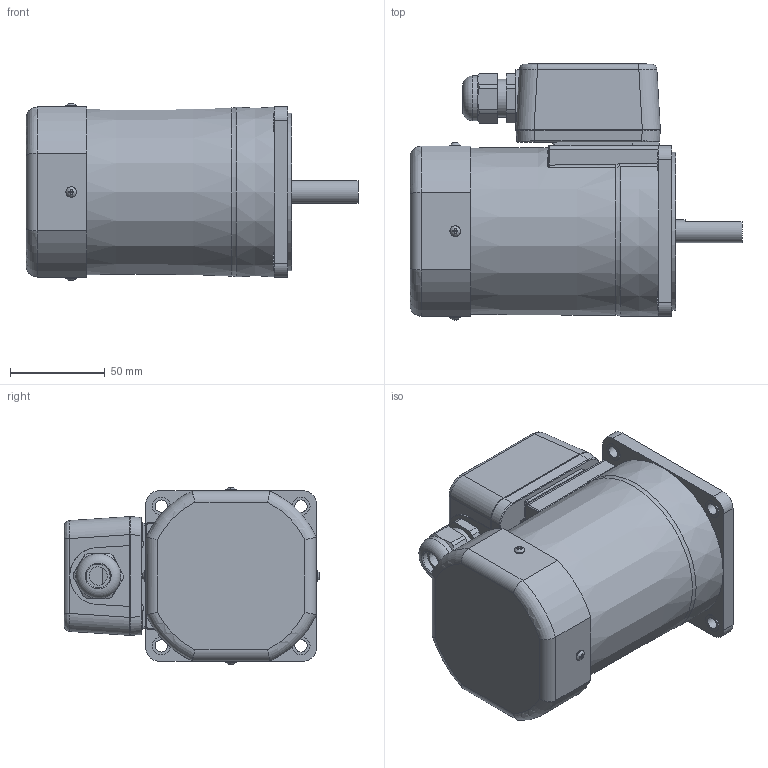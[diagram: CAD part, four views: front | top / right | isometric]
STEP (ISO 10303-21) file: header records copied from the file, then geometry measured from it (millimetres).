
FILE_DESCRIPTION((''),'2;1');
FILE_NAME('D:\김성묵\업무폴더\개발 파일\프로젝트 개발 AB등급\AC표준형 개발자료\90각 이하 표준형 개발\도면작성 자료\3D 도면\홈페이지용 3D 파일\90W MOTOR\T BOX TYPE\S9(I,R)90D-T.stp','2015-03-26T18:57:46',('smkim'),(''),'Autodesk Inventor 2012','Autodesk Inventor 2012','');
FILE_SCHEMA(('AUTOMOTIVE_DESIGN { 1 0 10303 214 1 1 1 1 }'));
Length unit declared in the file: millimetre
Products named in the file (7): S9(I,R)90D-T; S9I90GㅁTCE; FAN COVER; 552300620; 25W_T_BOX; S9I60D
Assembly tree (9 placements, depth 3):
  S9(I,R)90D-T
    S9I90GㅁTCE
    FAN COVER
      FAN COVER
      552300620  x4
    25W_T_BOX
    S9I60D
Bounding box: 174.8 x 134.75 x 93.49 mm (x, y, z)
Volume: 1171094.9 mm3; surface area: 117882.6 mm2
Topology: 8 solids, 15 shells, 496 faces, 1189 edges, 758 vertices
Faces by surface type: plane 264, cylinder 131, bspline 55, torus 33, cone 13
Full cylindrical faces by diameter (mm): 2.55 x2, 3 x8, 3.5 x4, 5.6 x8, 6.3 x4, 6.5 x4, 7 x1, 9 x1, 9.5 x4, 12 x1, 12.5 x1, 15 x1, 20 x2, 21 x1, 23.6 x1, 40 x1, 83 x1, 86 x1
Entity records: 14636 total; most frequent: CARTESIAN_POINT 4611, ORIENTED_EDGE 1908, DIRECTION 1898, EDGE_CURVE 954, AXIS2_PLACEMENT_3D 703, VERTEX_POINT 647, EDGE_LOOP 545, VECTOR 492
